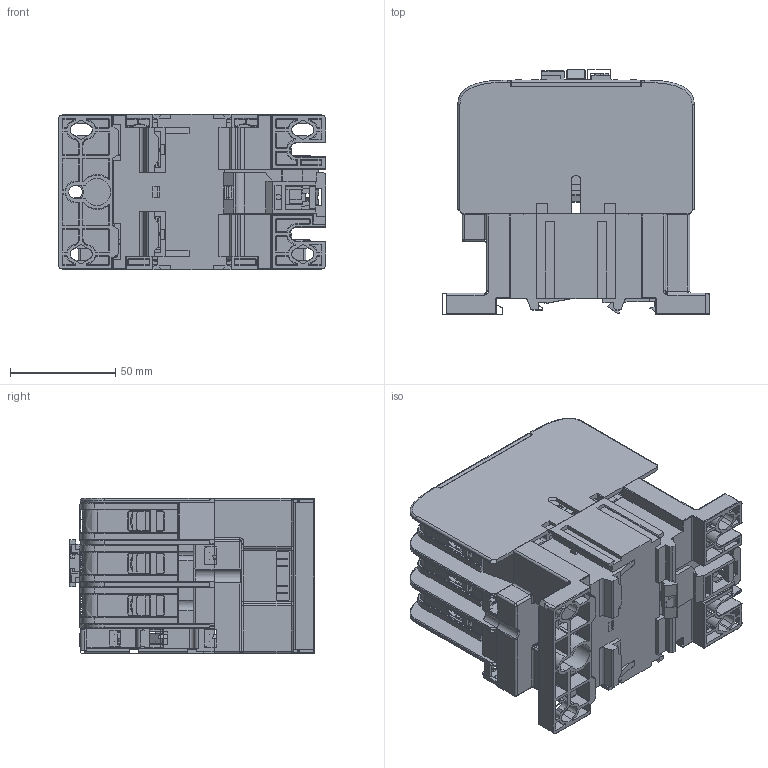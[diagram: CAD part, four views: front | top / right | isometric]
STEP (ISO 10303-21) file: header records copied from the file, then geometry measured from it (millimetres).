
FILE_DESCRIPTION((''),'2;1');
FILE_NAME('2TZD_400_1054_SW0002','2022-04-09T',('wangchen1'),(''),'PRO/ENGINEER BY PARAMETRIC TECHNOLOGY CORPORATION, 2017170','PRO/ENGINEER BY PARAMETRIC TECHNOLOGY CORPORATION, 2017170','');
FILE_SCHEMA(('CONFIG_CONTROL_DESIGN'));
Products named in the file (1): 2TZD_400_1054_SW0002
Bounding box: 127 x 116 x 73.5 mm (x, y, z)
Surface area: 226574.3 mm2 (no closed solid volume)
Topology: 0 solids, 283 shells, 2712 faces, 16478 edges, 13374 vertices
Faces by surface type: plane 1990, cylinder 578, bspline 86, torus 36, cone 18, extrusion 4
Entity records: 195081 total; most frequent: CARTESIAN_POINT 45514, DIRECTION 23590, ORIENTED_EDGE 21354, EDGE_CURVE 16478, VERTEX_POINT 13374, VECTOR 12062, LINE 12058, AXIS2_PLACEMENT_3D 5764
